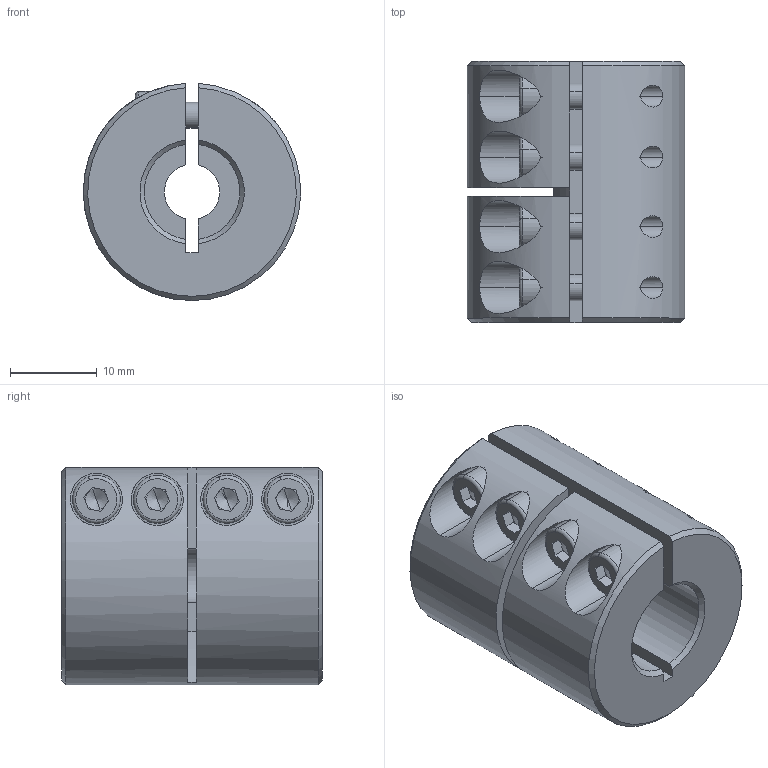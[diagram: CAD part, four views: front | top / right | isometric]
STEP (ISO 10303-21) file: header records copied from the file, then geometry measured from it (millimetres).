
FILE_DESCRIPTION (( 'STEP AP214' ), '1' );
FILE_NAME ('LL-B-D25L30-6.35-11½¨Ä£.STEP', '2022-07-21T03:14:32', ( '' ), ( '' ), 'SwSTEP 2.0', 'SolidWorks 2022', '' );
FILE_SCHEMA (( 'AUTOMOTIVE_DESIGN' ));
Length unit declared in the file: millimetre
Products named in the file (1): LL-B-D25L30-6.35-11膘耀
Bounding box: 24.99 x 30 x 24.98 mm (x, y, z)
Volume: 11737.9 mm3; surface area: 5921 mm2
Topology: 1 solids, 1 shells, 164 faces, 418 edges, 264 vertices
Faces by surface type: plane 83, cylinder 58, cone 15, torus 8
Entity records: 5402 total; most frequent: CARTESIAN_POINT 1363, DIRECTION 862, ORIENTED_EDGE 820, EDGE_CURVE 410, AXIS2_PLACEMENT_3D 331, VERTEX_POINT 264, VECTOR 200, LINE 200
